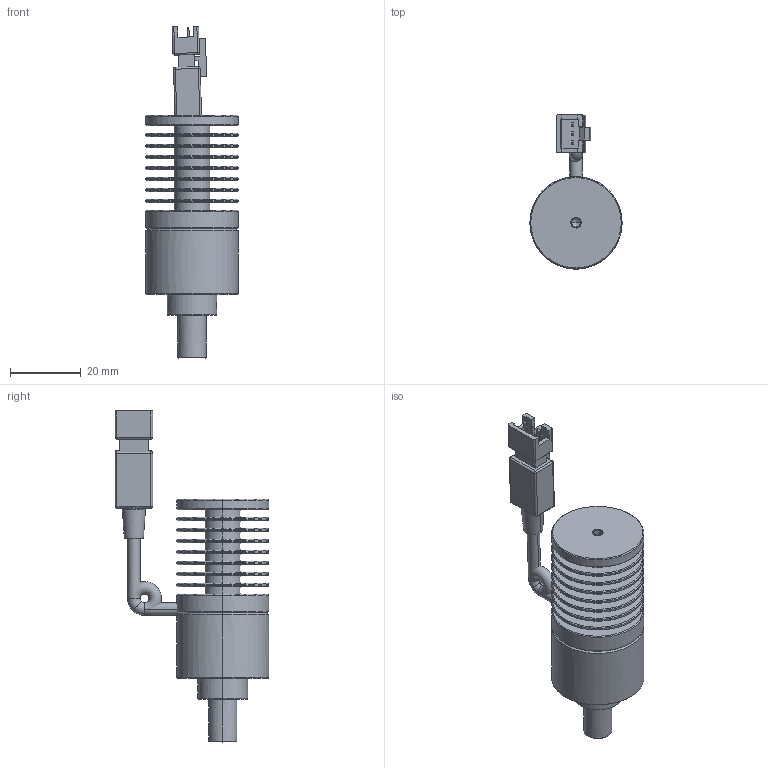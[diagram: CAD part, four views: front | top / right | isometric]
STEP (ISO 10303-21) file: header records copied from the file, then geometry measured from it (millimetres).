
FILE_DESCRIPTION((''),'2;1');
FILE_NAME('5W24V000_ASM','2024-04-29T17:05:12',('Rex.jiang'),(''),'CREO PARAMETRIC BY PTC INC, 2023014','CREO PARAMETRIC BY PTC INC, 2023014','');
FILE_SCHEMA(('CONFIG_CONTROL_DESIGN'));
Length unit declared in the file: millimetre
Products named in the file (6): 000; 0002; 5W_LED0; 5W24V000_ASM
Assembly tree (5 placements, depth 2):
  5W24V000_ASM
    000
    0002
    000
    5W_LED0
    000
Bounding box: 26 x 43.38 x 93.64 mm (x, y, z)
Surface area: 19309.5 mm2 (no closed solid volume)
Topology: 0 solids, 0 shells, 319 faces, 1460 edges, 1442 vertices
Faces by surface type: bspline 299, sphere 12, torus 8
Entity records: 35036 total; most frequent: CARTESIAN_POINT 21300, DIRECTION 2278, TRIMMED_CURVE 1911, VECTOR 1606, LINE 1606, DEFINITIONAL_REPRESENTATION 1438, PCURVE 1438, COMPOSITE_CURVE_SEGMENT 1438
